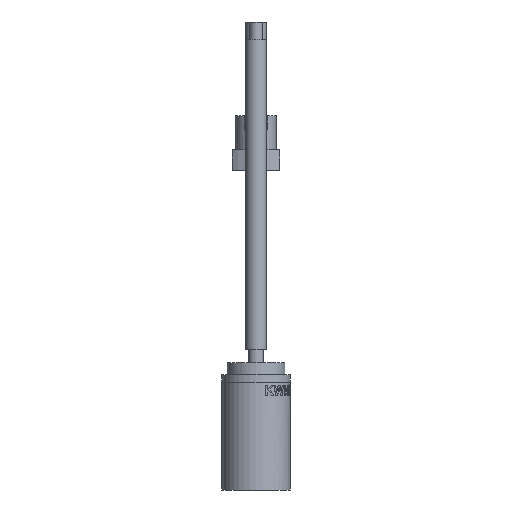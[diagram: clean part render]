
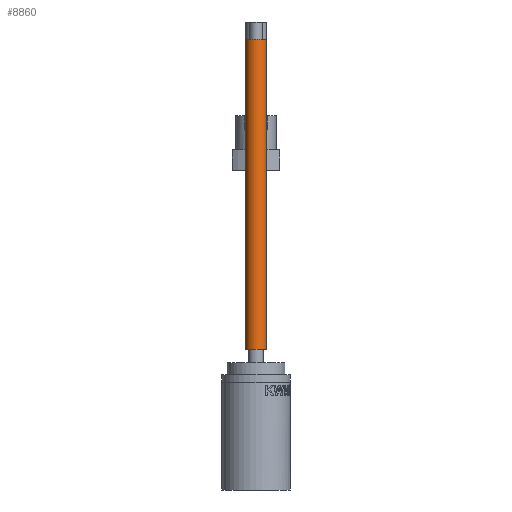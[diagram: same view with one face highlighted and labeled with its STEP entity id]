
A CAD part, left-side view. The second image highlights one B-rep face of the part: STEP entity #8860.
In plain terms, the highlighted cylindrical face has radius 1.5 mm (diameter 3 mm), a full revolution.
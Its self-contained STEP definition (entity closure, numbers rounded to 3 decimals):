
#8860=ADVANCED_FACE('',(#9607,#9608),#9072,.T.);
#9072=CYLINDRICAL_SURFACE('',#20315,1.5);
#9607=FACE_BOUND('',#10867,.T.);
#9608=FACE_BOUND('',#10868,.T.);
#10867=EDGE_LOOP('',(#14974));
#10868=EDGE_LOOP('',(#14975));
#14974=ORIENTED_EDGE('',*,*,#18652,.F.);
#14975=ORIENTED_EDGE('',*,*,#18653,.T.);
#16560=VERTEX_POINT('',#45012);
#16561=VERTEX_POINT('',#45014);
#18652=EDGE_CURVE('',#16560,#16560,#19145,.T.);
#18653=EDGE_CURVE('',#16561,#16561,#19146,.T.);
#19145=CIRCLE('',#20313,1.5);
#19146=CIRCLE('',#20314,1.5);
#20313=AXIS2_PLACEMENT_3D('',#45011,#23053,#23054);
#20314=AXIS2_PLACEMENT_3D('',#45013,#23055,#23056);
#20315=AXIS2_PLACEMENT_3D('',#45015,#23057,#23058);
#23053=DIRECTION('',(0.,0.,-1.));
#23054=DIRECTION('',(-1.,0.,0.));
#23055=DIRECTION('',(0.,0.,-1.));
#23056=DIRECTION('',(-1.,0.,0.));
#23057=DIRECTION('',(0.,0.,-1.));
#23058=DIRECTION('',(-1.,0.,0.));
#45011=CARTESIAN_POINT('',(-62.,0.,20.65));
#45012=CARTESIAN_POINT('',(-63.5,0.,20.65));
#45013=CARTESIAN_POINT('',(-62.,0.,66.15));
#45014=CARTESIAN_POINT('',(-63.5,0.,66.15));
#45015=CARTESIAN_POINT('',(-62.,0.,16.9));
